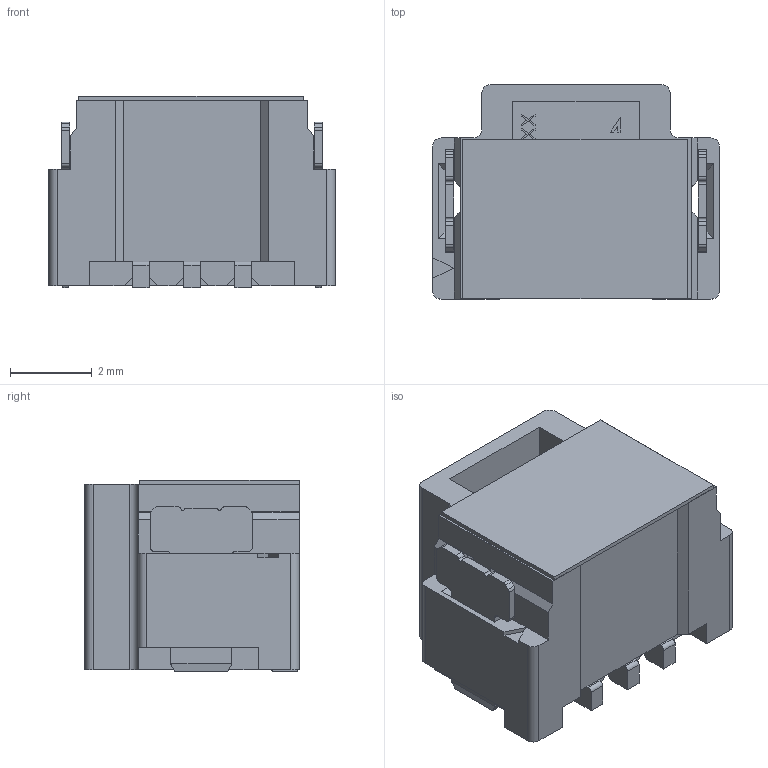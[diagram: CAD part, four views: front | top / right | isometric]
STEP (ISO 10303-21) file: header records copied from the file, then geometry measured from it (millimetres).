
FILE_DESCRIPTION((''),'2;1');
FILE_NAME('S-52316-003XXX-XXX_ASM','2023-05-04T',('ka2602'),(''),'PRO/ENGINEER BY PARAMETRIC TECHNOLOGY CORPORATION, 2009360','PRO/ENGINEER BY PARAMETRIC TECHNOLOGY CORPORATION, 2009360','');
FILE_SCHEMA(('CONFIG_CONTROL_DESIGN'));
Length unit declared in the file: millimetre
Products named in the file (3): S-52316-0034N-001_ASM; MYLAR; S-52316-003XXX-XXX_ASM
Assembly tree (2 placements, depth 2):
  S-52316-003XXX-XXX_ASM
    S-52316-0034N-001_ASM
    MYLAR
Bounding box: 7 x 5.24 x 4.69 mm (x, y, z)
Volume: 89 mm3; surface area: 391.9 mm2
Topology: 2 solids, 2 shells, 397 faces, 1243 edges, 814 vertices
Faces by surface type: plane 300, cylinder 97
Entity records: 13882 total; most frequent: CARTESIAN_POINT 2676, ORIENTED_EDGE 2446, DIRECTION 2173, EDGE_CURVE 1223, VECTOR 1013, LINE 1013, VERTEX_POINT 794, AXIS2_PLACEMENT_3D 580
